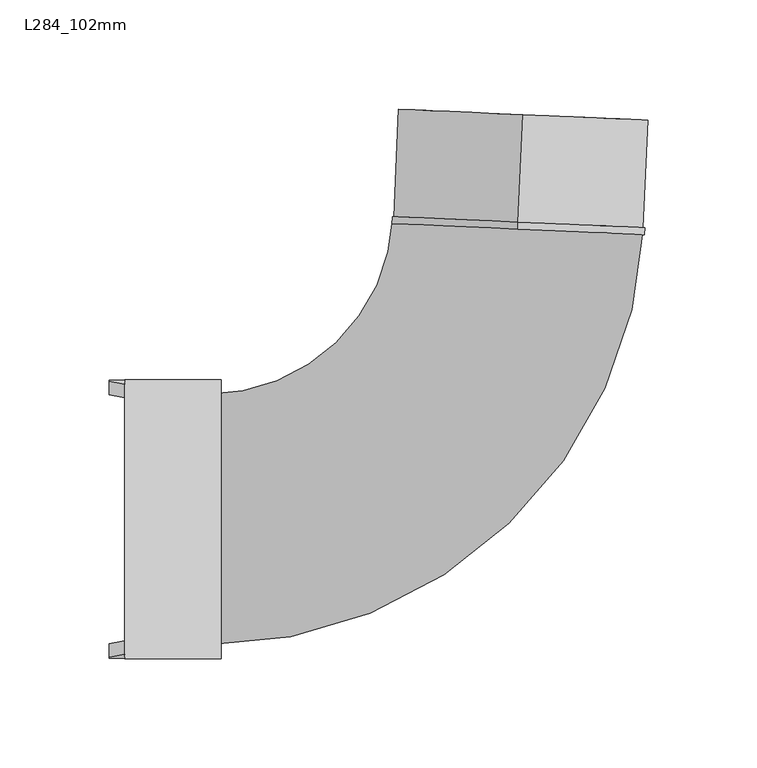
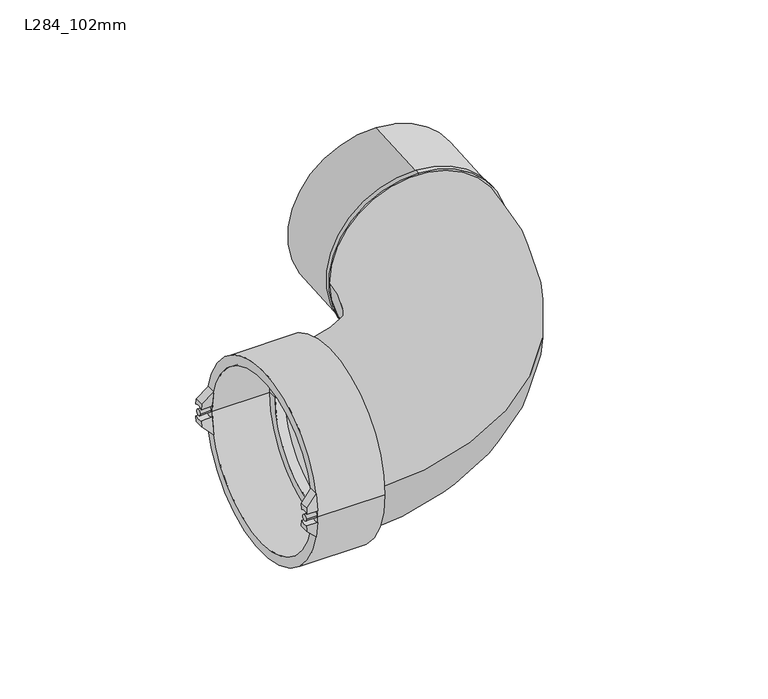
"""IFC4 building model written with IfcOpenShell, lengths in millimetres: pipe fitting geometry, Durapipe_PipeFitting_VulcatheneEnfusion_SingleSocketLongSweepBend_L28 : L284_102mm."""

from ifc_helpers import new_model, si_unit, point, frame, frame_2d, origin, place, context, project, spatial, polyline, circle_curve, ellipse_curve, trimmed, segment, composite_curve, outline, extrude, source, transform, mapped, element, save
from ifc_brep_helpers import plane_surface, cylinder_surface, revolved_surface, advanced_brep


def l284_102mm_153ca288(model_context):
    return source(origin(), model_context, "Body", "SolidModel", [
        advanced_brep(
        [(-181.3268857, 57.4204827, -3.858843), (-181.3268857, 63.5204827, -4.058421), (-181.3268857, 63.1528218, -7.94), (-181.3268857, 56.9996395, -7.94), (-174.2268857, 61.8572752, -15.0), (-174.2268857, 63.5204827, -4.058421), (-174.2268857, 57.4204827, -3.858843), (-174.2268857, 55.5608, -15.0)],
        [
            (0, 1, circle_curve(frame((-181.3268857, 60.6, 0.0), z_axis=(1.0, 0.0, 0.0), x_axis=(0.0, -1.0, 0.0)), 5.0)),
            (1, 2, circle_curve(frame((-181.3268857, 0.0, 0.0), z_axis=(-1.0, 0.0, 0.0), x_axis=(0.0, -1.0, 0.0)), 63.65)),
            (2, 3),
            (3, 0, circle_curve(frame((-181.3268857, 0.0, 0.0), z_axis=(1.0, 0.0, 0.0), x_axis=(0.0, -1.0, 0.0)), 57.55)),
            (4, 5, circle_curve(frame((-174.2268857, 0.0, 0.0), z_axis=(1.0, 0.0, 0.0), x_axis=(0.0, -1.0, 0.0)), 63.65)),
            (5, 6, circle_curve(frame((-174.2268857, 60.6, 0.0), z_axis=(-1.0, 0.0, 0.0), x_axis=(0.0, -1.0, 0.0)), 5.0)),
            (6, 7, circle_curve(frame((-174.2268857, 0.0, 0.0), z_axis=(-1.0, 0.0, 0.0), x_axis=(0.0, -1.0, 0.0)), 57.55)),
            (7, 4),
            (6, 0),
            (3, 7, ellipse_curve(frame((-189.3118716, 0.0, 0.0), z_axis=(-0.7051064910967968, 0.0, -0.7091014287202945), x_axis=(0.7091014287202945, 0.0, -0.7051064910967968)), 81.618877, 57.55)),
            (4, 2, ellipse_curve(frame((-189.3118716, 0.0, 0.0), z_axis=(0.7051064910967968, 0.0, 0.7091014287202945), x_axis=(-0.7091014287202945, 0.0, 0.7051064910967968)), 90.2700525, 63.65)),
            (1, 5),
        ],
        [
            plane_surface(frame((-181.3268857, 61.8572752, -15.0), z_axis=(-1.0, 0.0, 0.0), x_axis=(0.0, -1.0, 0.0))),
            plane_surface(frame((-174.2268857, 61.8572752, -15.0), z_axis=(1.0, 0.0, 0.0), x_axis=(0.0, 1.0, 0.0))),
            revolved_surface(polyline([(-131.43580930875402, -57.55, 0.0), (-247.18793389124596, -57.55, 0.0)]), (-174.2268857, 0.0, 0.0), (1.0, 0.0, 0.0)),
            cylinder_surface(frame((-174.2268857, 0.0, 0.0), z_axis=(-1.0, 0.0, 0.0), x_axis=(0.0, -1.0, 0.0)), 63.65),
            revolved_surface(polyline([(-181.3268857, 55.6, 0.0), (-174.2268857, 55.6, 0.0)]), (-174.2268857, 60.6, 0.0), (-1.0, 0.0, 0.0)),
            plane_surface(frame((-174.2268857, -104.876707, -15.0), z_axis=(-0.7051064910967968, 0.0, -0.7091014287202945), x_axis=(0.0, 1.0, 0.0))),
        ],
        [
            (0, [[1, 2, 3, 4]]),
            (1, [[5, 6, 7, 8]]),
            (2, [[-7, 9, -4, 10]]),
            (3, [[-5, 11, -2, 12]]),
            (4, [[-1, -9, -6, -12]]),
            (5, [[-3, -11, -8, -10]]),
        ],
    ),
        advanced_brep(
        [(-181.3268857, 63.5204827, 4.058421), (-181.3268857, 57.4204827, 3.858843), (-181.3268857, 56.9996395, 7.94), (-181.3268857, 63.1528218, 7.94), (-174.2268857, 63.5204827, 4.058421), (-174.2268857, 61.8572752, 15.0), (-174.2268857, 55.5608, 15.0), (-174.2268857, 57.4204827, 3.858843)],
        [
            (0, 1, circle_curve(frame((-181.3268857, 60.6, 0.0), z_axis=(1.0, 0.0, 0.0), x_axis=(0.0, -1.0, 0.0)), 5.0)),
            (1, 2, circle_curve(frame((-181.3268857, 0.0, 0.0), z_axis=(1.0, 0.0, 0.0), x_axis=(0.0, -1.0, 0.0)), 57.55)),
            (2, 3),
            (3, 0, circle_curve(frame((-181.3268857, 0.0, 0.0), z_axis=(-1.0, 0.0, 0.0), x_axis=(0.0, -1.0, 0.0)), 63.65)),
            (4, 5, circle_curve(frame((-174.2268857, 0.0, 0.0), z_axis=(1.0, 0.0, 0.0), x_axis=(0.0, -1.0, 0.0)), 63.65)),
            (5, 6),
            (6, 7, circle_curve(frame((-174.2268857, 0.0, 0.0), z_axis=(-1.0, 0.0, 0.0), x_axis=(0.0, -1.0, 0.0)), 57.55)),
            (7, 4, circle_curve(frame((-174.2268857, 60.6, 0.0), z_axis=(-1.0, 0.0, 0.0), x_axis=(0.0, -1.0, 0.0)), 5.0)),
            (6, 2, ellipse_curve(frame((-189.3118716, 0.0, 0.0), z_axis=(-0.7051064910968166, 0.0, 0.7091014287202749), x_axis=(0.7091014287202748, 0.0, 0.7051064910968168)), 81.618877, 57.55)),
            (1, 7),
            (4, 0),
            (3, 5, ellipse_curve(frame((-189.3118716, 0.0, 0.0), z_axis=(0.7051064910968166, 0.0, -0.7091014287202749), x_axis=(-0.7091014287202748, 0.0, -0.7051064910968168)), 90.2700525, 63.65)),
        ],
        [
            plane_surface(frame((-181.3268857, 61.8572752, -15.0), z_axis=(-1.0, 0.0, 0.0), x_axis=(0.0, -1.0, 0.0))),
            plane_surface(frame((-174.2268857, 61.8572752, -15.0), z_axis=(1.0, 0.0, 0.0), x_axis=(0.0, 1.0, 0.0))),
            revolved_surface(polyline([(-131.4358093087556, -57.55, 0.0), (-247.18793389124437, -57.55, 0.0)]), (-174.2268857, 0.0, 0.0), (1.0, 0.0, 0.0)),
            cylinder_surface(frame((-174.2268857, 0.0, 0.0), z_axis=(-1.0, 0.0, 0.0), x_axis=(0.0, -1.0, 0.0)), 63.65),
            revolved_surface(polyline([(-181.3268857, 55.6, 0.0), (-174.2268857, 55.6, 0.0)]), (-174.2268857, 60.6, 0.0), (-1.0, 0.0, 0.0)),
            plane_surface(frame((-181.3268857, -104.876707, 7.94), z_axis=(-0.7051064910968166, 0.0, 0.7091014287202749), x_axis=(0.0, 1.0, 0.0))),
        ],
        [
            (0, [[1, 2, 3, 4]]),
            (1, [[5, 6, 7, 8]]),
            (2, [[-7, 9, -2, 10]]),
            (3, [[-5, 11, -4, 12]]),
            (4, [[-1, -11, -8, -10]]),
            (5, [[-3, -9, -6, -12]]),
        ],
    ),
        advanced_brep(
        [(-181.3268857, -63.5204827, -4.058421), (-181.3268857, -57.4204827, -3.858843), (-181.3268857, -56.9996395, -7.94), (-181.3268857, -63.1528218, -7.94), (-174.2268857, -63.5204827, -4.058421), (-174.2268857, -61.8572752, -15.0), (-174.2268857, -55.5608, -15.0), (-174.2268857, -57.4204827, -3.858843)],
        [
            (0, 1, circle_curve(frame((-181.3268857, -60.6, 0.0), z_axis=(1.0, 0.0, 0.0), x_axis=(0.0, -1.0, 0.0)), 5.0)),
            (1, 2, circle_curve(frame((-181.3268857, 0.0, 0.0), z_axis=(1.0, 0.0, 0.0), x_axis=(0.0, -1.0, 0.0)), 57.55)),
            (2, 3),
            (3, 0, circle_curve(frame((-181.3268857, 0.0, 0.0), z_axis=(-1.0, 0.0, 0.0), x_axis=(0.0, -1.0, 0.0)), 63.65)),
            (4, 5, circle_curve(frame((-174.2268857, 0.0, 0.0), z_axis=(1.0, 0.0, 0.0), x_axis=(0.0, -1.0, 0.0)), 63.65)),
            (5, 6),
            (6, 7, circle_curve(frame((-174.2268857, 0.0, 0.0), z_axis=(-1.0, 0.0, 0.0), x_axis=(0.0, -1.0, 0.0)), 57.55)),
            (7, 4, circle_curve(frame((-174.2268857, -60.6, 0.0), z_axis=(-1.0, 0.0, 0.0), x_axis=(0.0, -1.0, 0.0)), 5.0)),
            (6, 2, ellipse_curve(frame((-189.3118716, 0.0, 0.0), z_axis=(-0.7051064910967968, 0.0, -0.7091014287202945), x_axis=(0.7091014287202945, 0.0, -0.7051064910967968)), 81.618877, 57.55)),
            (1, 7),
            (4, 0),
            (3, 5, ellipse_curve(frame((-189.3118716, 0.0, 0.0), z_axis=(0.7051064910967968, 0.0, 0.7091014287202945), x_axis=(-0.7091014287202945, 0.0, 0.7051064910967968)), 90.2700525, 63.65)),
        ],
        [
            plane_surface(frame((-181.3268857, 61.8572752, -15.0), z_axis=(-1.0, 0.0, 0.0), x_axis=(0.0, -1.0, 0.0))),
            plane_surface(frame((-174.2268857, 61.8572752, -15.0), z_axis=(1.0, 0.0, 0.0), x_axis=(0.0, 1.0, 0.0))),
            revolved_surface(polyline([(-131.43580930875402, -57.55, 0.0), (-247.18793389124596, -57.55, 0.0)]), (-174.2268857, 0.0, 0.0), (1.0, 0.0, 0.0)),
            cylinder_surface(frame((-174.2268857, 0.0, 0.0), z_axis=(-1.0, 0.0, 0.0), x_axis=(0.0, -1.0, 0.0)), 63.65),
            revolved_surface(polyline([(-181.3268857, -65.6, 0.0), (-174.2268857, -65.6, 0.0)]), (-174.2268857, -60.6, 0.0), (-1.0, 0.0, 0.0)),
            plane_surface(frame((-174.2268857, -104.876707, -15.0), z_axis=(-0.7051064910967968, 0.0, -0.7091014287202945), x_axis=(0.0, 1.0, 0.0))),
        ],
        [
            (0, [[1, 2, 3, 4]]),
            (1, [[5, 6, 7, 8]]),
            (2, [[-7, 9, -2, 10]]),
            (3, [[-5, 11, -4, 12]]),
            (4, [[-1, -11, -8, -10]]),
            (5, [[-3, -9, -6, -12]]),
        ],
    ),
        advanced_brep(
        [(-181.3268857, -57.4204827, 3.858843), (-181.3268857, -63.5204827, 4.058421), (-181.3268857, -63.1528218, 7.94), (-181.3268857, -56.9996395, 7.94), (-174.2268857, -61.8572752, 15.0), (-174.2268857, -63.5204827, 4.058421), (-174.2268857, -57.4204827, 3.858843), (-174.2268857, -55.5608, 15.0)],
        [
            (0, 1, circle_curve(frame((-181.3268857, -60.6, 0.0), z_axis=(1.0, 0.0, 0.0), x_axis=(0.0, -1.0, 0.0)), 5.0)),
            (1, 2, circle_curve(frame((-181.3268857, 0.0, 0.0), z_axis=(-1.0, 0.0, 0.0), x_axis=(0.0, -1.0, 0.0)), 63.65)),
            (2, 3),
            (3, 0, circle_curve(frame((-181.3268857, 0.0, 0.0), z_axis=(1.0, 0.0, 0.0), x_axis=(0.0, -1.0, 0.0)), 57.55)),
            (4, 5, circle_curve(frame((-174.2268857, 0.0, 0.0), z_axis=(1.0, 0.0, 0.0), x_axis=(0.0, -1.0, 0.0)), 63.65)),
            (5, 6, circle_curve(frame((-174.2268857, -60.6, 0.0), z_axis=(-1.0, 0.0, 0.0), x_axis=(0.0, -1.0, 0.0)), 5.0)),
            (6, 7, circle_curve(frame((-174.2268857, 0.0, 0.0), z_axis=(-1.0, 0.0, 0.0), x_axis=(0.0, -1.0, 0.0)), 57.55)),
            (7, 4),
            (6, 0),
            (3, 7, ellipse_curve(frame((-189.3118716, 0.0, 0.0), z_axis=(-0.7051064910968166, 0.0, 0.7091014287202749), x_axis=(0.7091014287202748, 0.0, 0.7051064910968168)), 81.618877, 57.55)),
            (4, 2, ellipse_curve(frame((-189.3118716, 0.0, 0.0), z_axis=(0.7051064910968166, 0.0, -0.7091014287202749), x_axis=(-0.7091014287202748, 0.0, -0.7051064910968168)), 90.2700525, 63.65)),
            (1, 5),
        ],
        [
            plane_surface(frame((-181.3268857, 61.8572752, -15.0), z_axis=(-1.0, 0.0, 0.0), x_axis=(0.0, -1.0, 0.0))),
            plane_surface(frame((-174.2268857, 61.8572752, -15.0), z_axis=(1.0, 0.0, 0.0), x_axis=(0.0, 1.0, 0.0))),
            revolved_surface(polyline([(-131.4358093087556, -57.55, 0.0), (-247.18793389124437, -57.55, 0.0)]), (-174.2268857, 0.0, 0.0), (1.0, 0.0, 0.0)),
            cylinder_surface(frame((-174.2268857, 0.0, 0.0), z_axis=(-1.0, 0.0, 0.0), x_axis=(0.0, -1.0, 0.0)), 63.65),
            revolved_surface(polyline([(-181.3268857, -65.6, 0.0), (-174.2268857, -65.6, 0.0)]), (-174.2268857, -60.6, 0.0), (-1.0, 0.0, 0.0)),
            plane_surface(frame((-181.3268857, -104.876707, 7.94), z_axis=(-0.7051064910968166, 0.0, 0.7091014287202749), x_axis=(0.0, 1.0, 0.0))),
        ],
        [
            (0, [[1, 2, 3, 4]]),
            (1, [[5, 6, 7, 8]]),
            (2, [[-7, 9, -4, 10]]),
            (3, [[-5, 11, -2, 12]]),
            (4, [[-1, -9, -6, -12]]),
            (5, [[-3, -11, -8, -10]]),
        ],
    ),
        extrude(outline(composite_curve([segment(trimmed(circle_curve(frame_2d((60.6, 0.0)), 2.0), [point((62.6, 0.0))], [point((58.6, 0.0))], False, "CARTESIAN"), True, "CONTINUOUS"), segment(trimmed(circle_curve(frame_2d((60.6, 0.0)), 2.0), [point((58.6, 0.0))], [point((62.6, 0.0))], False, "CARTESIAN"), True, "CONTINUOUS")], self_intersect=False)), frame((-181.3268857, 0.0, 0.0), z_axis=(1.0, 0.0, 0.0), x_axis=(0.0, 1.0, 0.0)), (0.0, 0.0, 1.0), 7.1),
        extrude(outline(composite_curve([segment(trimmed(circle_curve(frame_2d((-60.6, 0.0)), 2.0), [point((-58.6, 0.0))], [point((-62.6, 0.0))], False, "CARTESIAN"), True, "CONTINUOUS"), segment(trimmed(circle_curve(frame_2d((-60.6, 0.0)), 2.0), [point((-62.6, 0.0))], [point((-58.6, 0.0))], False, "CARTESIAN"), True, "CONTINUOUS")], self_intersect=False)), frame((-181.3268857, 0.0, 0.0), z_axis=(1.0, 0.0, 0.0), x_axis=(0.0, 1.0, 0.0)), (0.0, 0.0, 1.0), 7.1),
        advanced_brep(
        [(5.7981893, 132.8003688, -58.0), (5.7981893, 132.8003688, 58.0), (5.7981893, 132.8003688, 51.3), (5.7981893, 132.8003688, -51.3), (5.9377714, 135.9973231, -58.0), (5.9377714, 135.9973231, 58.0), (5.9377714, 135.9973231, -57.2), (5.9377714, 135.9973231, 57.2), (8.0838452, 185.1504956, -57.2), (8.0838452, 185.1504956, 57.2), (8.0838452, 185.1504956, -51.3), (8.0838452, 185.1504956, 51.3)],
        [
            (0, 1, circle_curve(frame((5.7981893, 132.8003688, 0.0), z_axis=(-0.04361938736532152, -0.9990482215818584, 0.0), x_axis=(0.0, 0.0, 1.0)), 58.0)),
            (1, 2),
            (2, 3, circle_curve(frame((5.7981893, 132.8003688, 0.0), z_axis=(0.04361938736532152, 0.9990482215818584, 0.0), x_axis=(0.0, 0.0, 1.0)), 51.3)),
            (3, 0),
            (1, 0, circle_curve(frame((5.7981893, 132.8003688, 0.0), z_axis=(-0.04361938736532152, -0.9990482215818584, 0.0), x_axis=(0.0, 0.0, 1.0)), 58.0)),
            (3, 2, circle_curve(frame((5.7981893, 132.8003688, 0.0), z_axis=(0.04361938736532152, 0.9990482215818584, 0.0), x_axis=(0.0, 0.0, 1.0)), 51.3)),
            (4, 5, circle_curve(frame((5.9377714, 135.9973231, 0.0), z_axis=(-0.04361938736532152, -0.9990482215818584, 0.0), x_axis=(0.0, 0.0, 1.0)), 58.0)),
            (5, 1),
            (0, 4),
            (5, 4, circle_curve(frame((5.9377714, 135.9973231, 0.0), z_axis=(-0.04361938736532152, -0.9990482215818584, 0.0), x_axis=(0.0, 0.0, 1.0)), 58.0)),
            (6, 7, circle_curve(frame((5.9377714, 135.9973231, 0.0), z_axis=(-0.04361938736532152, -0.9990482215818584, 0.0), x_axis=(0.0, 0.0, 1.0)), 57.2)),
            (7, 5),
            (4, 6),
            (7, 6, circle_curve(frame((5.9377714, 135.9973231, 0.0), z_axis=(-0.04361938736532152, -0.9990482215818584, 0.0), x_axis=(0.0, 0.0, 1.0)), 57.2)),
            (8, 9, circle_curve(frame((8.0838452, 185.1504956, 0.0), z_axis=(-0.04361938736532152, -0.9990482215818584, 0.0), x_axis=(0.0, 0.0, 1.0)), 57.2)),
            (9, 7),
            (6, 8),
            (9, 8, circle_curve(frame((8.0838452, 185.1504956, 0.0), z_axis=(-0.04361938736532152, -0.9990482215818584, 0.0), x_axis=(0.0, 0.0, 1.0)), 57.2)),
            (10, 11, circle_curve(frame((8.0838452, 185.1504956, 0.0), z_axis=(-0.04361938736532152, -0.9990482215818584, 0.0), x_axis=(0.0, 0.0, 1.0)), 51.3)),
            (11, 9),
            (8, 10),
            (11, 10, circle_curve(frame((8.0838452, 185.1504956, 0.0), z_axis=(-0.04361938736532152, -0.9990482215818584, 0.0), x_axis=(0.0, 0.0, 1.0)), 51.3)),
            (2, 11),
            (10, 3),
        ],
        [
            plane_surface(frame((5.7981893, 132.8003688, 0.0), z_axis=(-0.04361938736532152, -0.9990482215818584, 0.0), x_axis=(0.0, 0.0, 1.0))),
            cylinder_surface(frame((119.272198, 2731.7824583, 0.0), z_axis=(0.04361938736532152, 0.9990482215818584, 0.0), x_axis=(0.0, 0.0, 1.0)), 58.0),
            plane_surface(frame((5.9377714, 135.9973231, 0.0), z_axis=(0.04361938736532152, 0.9990482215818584, 0.0), x_axis=(0.0, 0.0, 1.0))),
            cylinder_surface(frame((119.272198, 2731.7824583, 0.0), z_axis=(0.04361938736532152, 0.9990482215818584, 0.0), x_axis=(0.0, 0.0, 1.0)), 57.2),
            plane_surface(frame((8.0838452, 185.1504956, 0.0), z_axis=(0.04361938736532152, 0.9990482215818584, 0.0), x_axis=(0.0, 0.0, 1.0))),
            revolved_surface(polyline([(8.083845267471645, 185.1504955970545, 51.3), (5.79818936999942, 132.80036879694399, 51.3)]), (119.272198, 2731.7824583, 0.0), (0.04361938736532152, 0.9990482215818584, 0.0)),
        ],
        [
            (0, [[1, 2, 3, 4]]),
            (0, [[5, -4, 6, -2]]),
            (1, [[7, 8, -1, 9]]),
            (1, [[10, -9, -5, -8]]),
            (2, [[11, 12, -7, 13]]),
            (2, [[14, -13, -10, -12]]),
            (3, [[15, 16, -11, 17]]),
            (3, [[18, -17, -14, -16]]),
            (4, [[19, 20, -15, 21]]),
            (4, [[22, -21, -18, -20]]),
            (5, [[-3, 23, -19, 24]]),
            (5, [[-6, -24, -22, -23]]),
        ],
    ),
        advanced_brep(
        [(-130.0268857, 63.8, 0.0), (-130.0268857, -63.8, 0.0), (-174.2268857, -63.8, 0.0), (-174.2268857, 63.8, 0.0), (-130.0268857, 51.3, 0.0), (-130.0268857, -51.3, 0.0), (-136.1268857, 51.3, 0.0), (-136.1268857, -51.3, 0.0), (-136.1268857, 57.4, 0.0), (-136.1268857, -57.4, 0.0), (-174.2268857, 57.4, 0.0), (-174.2268857, -57.4, 0.0)],
        [
            (0, 1, circle_curve(frame((-130.0268857, 0.0, 0.0), z_axis=(-1.0, 0.0, 0.0), x_axis=(0.0, -1.0, 0.0)), 63.8)),
            (1, 2),
            (2, 3, circle_curve(frame((-174.2268857, 0.0, 0.0), z_axis=(1.0, 0.0, 0.0), x_axis=(0.0, -1.0, 0.0)), 63.8)),
            (3, 0),
            (1, 0, circle_curve(frame((-130.0268857, 0.0, 0.0), z_axis=(-1.0, 0.0, 0.0), x_axis=(0.0, -1.0, 0.0)), 63.8)),
            (3, 2, circle_curve(frame((-174.2268857, 0.0, 0.0), z_axis=(1.0, 0.0, 0.0), x_axis=(0.0, -1.0, 0.0)), 63.8)),
            (4, 5, circle_curve(frame((-130.0268857, 0.0, 0.0), z_axis=(-1.0, 0.0, 0.0), x_axis=(0.0, -1.0, 0.0)), 51.3)),
            (5, 1),
            (0, 4),
            (5, 4, circle_curve(frame((-130.0268857, 0.0, 0.0), z_axis=(-1.0, 0.0, 0.0), x_axis=(0.0, -1.0, 0.0)), 51.3)),
            (6, 7, circle_curve(frame((-136.1268857, 0.0, 0.0), z_axis=(-1.0, 0.0, 0.0), x_axis=(0.0, -1.0, 0.0)), 51.3)),
            (7, 5),
            (4, 6),
            (7, 6, circle_curve(frame((-136.1268857, 0.0, 0.0), z_axis=(-1.0, 0.0, 0.0), x_axis=(0.0, -1.0, 0.0)), 51.3)),
            (8, 9, circle_curve(frame((-136.1268857, 0.0, 0.0), z_axis=(-1.0, 0.0, 0.0), x_axis=(0.0, -1.0, 0.0)), 57.4)),
            (9, 7),
            (6, 8),
            (9, 8, circle_curve(frame((-136.1268857, 0.0, 0.0), z_axis=(-1.0, 0.0, 0.0), x_axis=(0.0, -1.0, 0.0)), 57.4)),
            (10, 11, circle_curve(frame((-174.2268857, 0.0, 0.0), z_axis=(-1.0, 0.0, 0.0), x_axis=(0.0, -1.0, 0.0)), 57.4)),
            (11, 9),
            (8, 10),
            (11, 10, circle_curve(frame((-174.2268857, 0.0, 0.0), z_axis=(-1.0, 0.0, 0.0), x_axis=(0.0, -1.0, 0.0)), 57.4)),
            (2, 11),
            (10, 3),
        ],
        [
            cylinder_surface(frame((1571.2518184, 0.0, 0.0), z_axis=(1.0, 0.0, 0.0), x_axis=(0.0, -1.0, 0.0)), 63.8),
            plane_surface(frame((-130.0268857, 0.0, 0.0), z_axis=(1.0, 0.0, 0.0), x_axis=(0.0, -1.0, 0.0))),
            revolved_surface(polyline([(-130.0268857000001, -51.3, 0.0), (-136.1268857, -51.3, 0.0)]), (1571.2518184, 0.0, 0.0), (1.0, 0.0, 0.0)),
            plane_surface(frame((-136.1268857, 0.0, 0.0), z_axis=(-1.0, 0.0, 0.0), x_axis=(0.0, -1.0, 0.0))),
            revolved_surface(polyline([(-136.1268857, -57.4, 0.0), (-174.2268856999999, -57.4, 0.0)]), (1571.2518184, 0.0, 0.0), (1.0, 0.0, 0.0)),
            plane_surface(frame((-174.2268857, 0.0, 0.0), z_axis=(-1.0, 0.0, 0.0), x_axis=(0.0, -1.0, 0.0))),
        ],
        [
            (0, [[1, 2, 3, 4]]),
            (0, [[5, -4, 6, -2]]),
            (1, [[7, 8, -1, 9]]),
            (1, [[10, -9, -5, -8]]),
            (2, [[11, 12, -7, 13]]),
            (2, [[14, -13, -10, -12]]),
            (3, [[15, 16, -11, 17]]),
            (3, [[18, -17, -14, -16]]),
            (4, [[19, 20, -15, 21]]),
            (4, [[22, -21, -18, -20]]),
            (5, [[-3, 23, -19, 24]]),
            (5, [[-6, -24, -22, -23]]),
        ],
    ),
        advanced_brep(
        [(-136.1268857, -57.3, 0.0), (-136.1268857, 57.3, 0.0), (-136.1268857, -51.3, 0.0), (-136.1268857, 51.3, 0.0), (63.1832345, 133.4979322, 0.0), (-51.3076917, 138.496714, 0.0), (57.1889451, 133.7596485, 0.0), (-45.3134024, 138.2349977, 0.0)],
        [
            (0, 1, circle_curve(frame((-136.1268857, 0.0, 0.0), z_axis=(-1.0, 0.0, 0.0), x_axis=(0.0, 1.0, 0.0)), 57.3)),
            (1, 0, circle_curve(frame((-136.1268857, 0.0, 0.0), z_axis=(-1.0, 0.0, 0.0), x_axis=(0.0, 1.0, 0.0)), 57.3)),
            (2, 3, circle_curve(frame((-136.1268857, 0.0, 0.0), z_axis=(1.0, 0.0, 0.0), x_axis=(0.0, 1.0, 0.0)), 51.3)),
            (3, 2, circle_curve(frame((-136.1268857, 0.0, 0.0), z_axis=(1.0, 0.0, 0.0), x_axis=(0.0, 1.0, 0.0)), 51.3)),
            (4, 5, circle_curve(frame((5.9377714, 135.9973231, 0.0), z_axis=(0.043619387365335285, 0.9990482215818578, 0.0), x_axis=(-0.9990482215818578, 0.043619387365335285, 0.0)), 57.3)),
            (5, 4, circle_curve(frame((5.9377714, 135.9973231, 0.0), z_axis=(0.043619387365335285, 0.9990482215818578, 0.0), x_axis=(-0.9990482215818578, 0.043619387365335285, 0.0)), 57.3)),
            (6, 7, circle_curve(frame((5.9377714, 135.9973231, 0.0), z_axis=(-0.043619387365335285, -0.9990482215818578, 0.0), x_axis=(-0.9990482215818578, 0.043619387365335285, 0.0)), 51.3)),
            (7, 6, circle_curve(frame((5.9377714, 135.9973231, 0.0), z_axis=(-0.043619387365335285, -0.9990482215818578, 0.0), x_axis=(-0.9990482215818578, 0.043619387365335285, 0.0)), 51.3)),
            (7, 3, circle_curve(frame((-136.1268857, 142.2, 0.0), z_axis=(0.0, 0.0, -1.0), x_axis=(0.0, -1.0, 0.0)), 90.9)),
            (2, 6, circle_curve(frame((-136.1268857, 142.2, 0.0), z_axis=(0.0, 0.0, 1.0), x_axis=(0.0, -1.0, 0.0)), 193.5)),
            (5, 1, circle_curve(frame((-136.1268857, 142.2, 0.0), z_axis=(0.0, 0.0, -1.0), x_axis=(0.0, -1.0, 0.0)), 84.9)),
            (0, 4, circle_curve(frame((-136.1268857, 142.2, 0.0), z_axis=(0.0, 0.0, 1.0), x_axis=(0.0, -1.0, 0.0)), 199.5)),
        ],
        [
            plane_surface(frame((-136.1268857, 0.0, 0.0), z_axis=(-1.0, 0.0, 0.0), x_axis=(0.0, 0.0, 1.0))),
            plane_surface(frame((5.9377714, 135.9973231, 0.0), z_axis=(0.043619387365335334, 0.9990482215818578, 0.0), x_axis=(0.0, 0.0, 1.0))),
            revolved_surface(trimmed(ellipse_curve(frame((-136.1268857, 0.0, 0.0), z_axis=(1.0, 0.0, 0.0), x_axis=(0.0, 1.0, 0.0)), 51.3, 51.3), [point((-136.1268857, -51.3, 0.0))], [point((-136.1268857, 51.3, 0.0))], True, "CARTESIAN"), (-136.1268857, 142.2, 0.0), (0.0, 0.0, 1.0)),
            revolved_surface(trimmed(ellipse_curve(frame((-136.1268857, 0.0, 0.0), z_axis=(1.0, 0.0, 0.0), x_axis=(0.0, 1.0, 0.0)), 51.3, 51.3), [point((-136.1268857, 51.3, 0.0))], [point((-136.1268857, -51.3, 0.0))], True, "CARTESIAN"), (-136.1268857, 142.2, 0.0), (0.0, 0.0, 1.0)),
            revolved_surface(trimmed(ellipse_curve(frame((-136.1268857, 0.0, 0.0), z_axis=(-1.0, 0.0, 0.0), x_axis=(0.0, 1.0, 0.0)), 57.3, 57.3), [point((-136.1268857, -57.3, 0.0))], [point((-136.1268857, 57.3, 0.0))], True, "CARTESIAN"), (-136.1268857, 142.2, 0.0), (0.0, 0.0, 1.0)),
            revolved_surface(trimmed(ellipse_curve(frame((-136.1268857, 0.0, 0.0), z_axis=(-1.0, 0.0, 0.0), x_axis=(0.0, 1.0, 0.0)), 57.3, 57.3), [point((-136.1268857, 57.3, 0.0))], [point((-136.1268857, -57.3, 0.0))], True, "CARTESIAN"), (-136.1268857, 142.2, 0.0), (0.0, 0.0, 1.0)),
        ],
        [
            (0, [[1, 2], [3, 4]]),
            (1, [[5, 6], [7, 8]]),
            (2, [[9, -3, 10, -8]]),
            (3, [[-10, -4, -9, -7]]),
            (4, [[11, -1, 12, -6]]),
            (5, [[-12, -2, -11, -5]]),
        ],
    ),
    ])


if __name__ == "__main__":
    model = new_model("IFC4")
    model_context = context("Model", 3, world=origin())
    ifc_project = project(units=[si_unit("LENGTHUNIT", "METRE", prefix="MILLI")], contexts=[model_context])
    site = spatial("IfcSite", under=ifc_project)
    building = spatial("IfcBuilding", under=site)
    placement = place(None, origin())
    l284_102mm_shape = l284_102mm_153ca288(model_context)
    element("IfcPipeFitting", 1, ObjectType="Durapipe_PipeFitting_VulcatheneEnfusion_SingleSocketLongSweepBend_L28 : L284_102mm", at=placement, inside=building, context=model_context, shape_type="MappedRepresentation", body=[
        mapped(l284_102mm_shape, transform((0.0, 0.0, 0.0), x_axis=(1.0, 0.0, 0.0), y_axis=(0.0, 1.0, 0.0), z_axis=(0.0, 0.0, 1.0))),
    ])
    save(model, "model.ifc")
